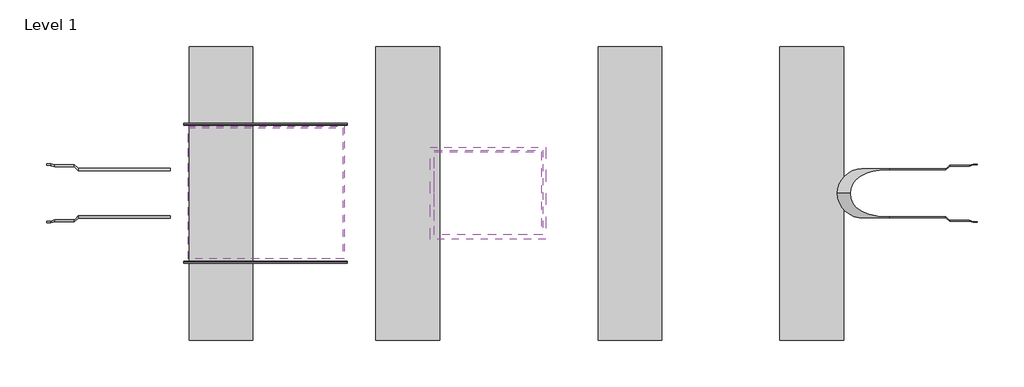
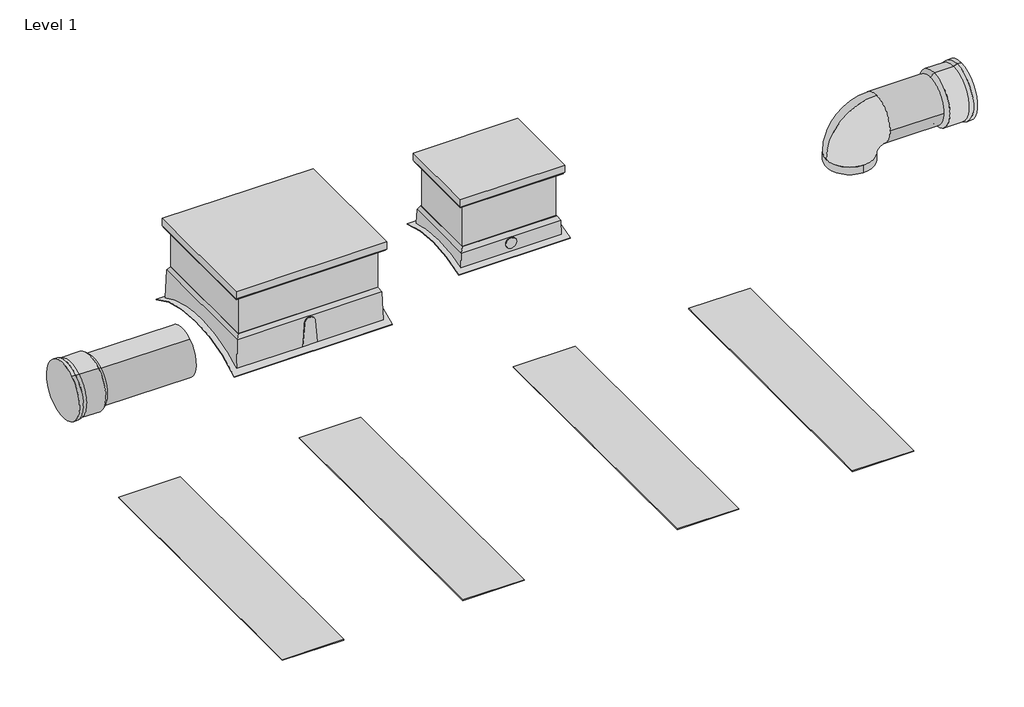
# One storey, incomplete: 12 proxies.
"""IFC4 building model written with IfcOpenShell, lengths in millimetres."""

from ifc_helpers import new_model, si_unit, origin, place, context, project, spatial, transform, mapped, element, save
from components import generic_models_f28cb2f1, generic_models_54e7e838, generic_models_1ade828a, generic_models_c3405434, generic_models_ba4cfca8, generic_models_fcdfde94, generic_models_c0f8ed8c, proxy_600_storm_pro_inlet_elbow_25fc55d9, proxy_600_storm_pro_pipe_and_socket_58a41dc5

model = new_model("IFC4")

# Units and contexts
model_context = context("Model", 3, world=origin())
ifc_project = project(units=[si_unit("LENGTHUNIT", "METRE", prefix="MILLI")], contexts=[model_context])

# Site, building, storey
site = spatial("IfcSite", under=ifc_project)
building = spatial("IfcBuilding", under=site)
storey = spatial("IfcBuildingStorey", under=building, Name="Level 1", Elevation=0.0)

# Proxies
placement = place(None, origin())
generic_models_shape = generic_models_f28cb2f1(model_context)
element("IfcBuildingElementProxy", 1, Name="SU.HS.FOOT.3500", ObjectType="SU.HS.FOOT.3500", at=placement, inside=storey, context=model_context, shape_type="MappedRepresentation", body=[
    mapped(generic_models_shape, transform((4303.4021454, 13.0189138, -2135.7858921), x_axis=(0.0, -1.0, 0.0), y_axis=(0.0, 0.0, 1.0), z_axis=(-1.0, 0.0, 0.0))),
])
element("IfcBuildingElementProxy", 2, Name="SU.HS.FOOT.3500", ObjectType="SU.HS.FOOT.3500", at=placement, inside=storey, context=model_context, shape_type="MappedRepresentation", body=[
    mapped(generic_models_shape, transform((2023.4021454, 13.0189138, -2135.7858921), x_axis=(0.0, -1.0, 0.0), y_axis=(0.0, 0.0, 1.0), z_axis=(-1.0, 0.0, 0.0))),
])
element("IfcBuildingElementProxy", 3, Name="SU.HS.FOOT.3500", ObjectType="SU.HS.FOOT.3500", at=placement, inside=storey, context=model_context, shape_type="MappedRepresentation", body=[
    mapped(generic_models_shape, transform((-3106.5978546, 13.0189138, -2135.7858921), x_axis=(0.0, -1.0, 0.0), y_axis=(0.0, 0.0, 1.0), z_axis=(-1.0, 0.0, 0.0))),
])
element("IfcBuildingElementProxy", 4, Name="SU.HS.FOOT.3500", ObjectType="SU.HS.FOOT.3500", at=placement, inside=storey, context=model_context, shape_type="MappedRepresentation", body=[
    mapped(generic_models_shape, transform((-763.4057076, 13.0189138, -2135.7858921), x_axis=(0.0, -1.0, 0.0), y_axis=(0.0, 0.0, 1.0), z_axis=(-1.0, 0.0, 0.0))),
])
generic_models_2_shape = generic_models_54e7e838(model_context)
element("IfcBuildingElementProxy", 5, Name="SU.1500x1800ManwayRiserAdaptor.3500", ObjectType="SU.1500x1800ManwayRiserAdaptor.3500", at=placement, inside=storey, context=model_context, shape_type="MappedRepresentation", body=[
    mapped(generic_models_2_shape, transform((-2848.0704947, 13.0189138, 1715.97119), x_axis=(0.0, -1.0, 0.0), y_axis=(0.0, 0.0, 1.0), z_axis=(-1.0, 0.0, 0.0))),
])
generic_models_3_shape = generic_models_1ade828a(model_context)
element("IfcBuildingElementProxy", 6, Name="1500x1800 Manway Cover Class D ST-02", ObjectType="1500x1800 Manway Cover Class D ST-02", at=placement, inside=storey, context=model_context, shape_type="MappedRepresentation", body=[
    mapped(generic_models_3_shape, transform((-2838.0704947, 23.0189138, 2206.0271944), x_axis=(0.0, -1.0, 0.0), y_axis=(0.0, 0.0, 1.0), z_axis=(-1.0, 0.0, 0.0))),
])
generic_models_4_shape = generic_models_c3405434(model_context)
element("IfcBuildingElementProxy", 7, Name="SU.900x1200ManwayRiserAdapter.3500", ObjectType="SU.900x1200ManwayRiserAdapter.3500", at=placement, inside=storey, context=model_context, shape_type="MappedRepresentation", body=[
    mapped(generic_models_4_shape, transform((-60.0704947, 13.0189138, 1650.0271944), x_axis=(0.0, -1.0, 0.0), y_axis=(0.0, 0.0, 1.0), z_axis=(-1.0, 0.0, 0.0))),
])
generic_models_5_shape = generic_models_ba4cfca8(model_context)
element("IfcBuildingElementProxy", 8, Name="1500x1800x600 Manway Riser", ObjectType="1500x1800x600 Manway Riser", at=placement, inside=storey, context=model_context, shape_type="MappedRepresentation", body=[
    mapped(generic_models_5_shape, transform((-2848.0704947, 13.0189138, 2206.0271944), x_axis=(0.0, -1.0, 0.0), y_axis=(0.0, 0.0, 1.0), z_axis=(-1.0, 0.0, 0.0))),
])
generic_models_6_shape = generic_models_fcdfde94(model_context)
element("IfcBuildingElementProxy", 9, Name="900x900 Manway Cover Class D ST-02", ObjectType="900x900 Manway Cover Class D ST-02", at=placement, inside=storey, context=model_context, shape_type="MappedRepresentation", body=[
    mapped(generic_models_6_shape, transform((-50.0704947, 23.0189138, 2206.0271944), x_axis=(0.0, 1.0, 0.0), y_axis=(0.0, 0.0, 1.0), z_axis=(1.0, 0.0, 0.0))),
])
generic_models_7_shape = generic_models_c0f8ed8c(model_context)
element("IfcBuildingElementProxy", 10, Name="900x1200x600 Manway Riser", ObjectType="900x1200x600 Manway Riser", at=placement, inside=storey, context=model_context, shape_type="MappedRepresentation", body=[
    mapped(generic_models_7_shape, transform((-60.0704947, 13.0189138, 2206.0271944), x_axis=(0.0, 1.0, 0.0), y_axis=(0.0, 0.0, 1.0), z_axis=(1.0, 0.0, 0.0))),
])
proxy_600_storm_pro_inlet_elbow_shape = proxy_600_storm_pro_inlet_elbow_25fc55d9(model_context)
element("IfcBuildingElementProxy", 11, Name="600 Storm Pro Inlet Elbow", ObjectType="600 Storm Pro Inlet Elbow", at=placement, inside=storey, context=model_context, shape_type="MappedRepresentation", body=[
    mapped(proxy_600_storm_pro_inlet_elbow_shape, transform((5629.9982189, 13.0189138, 1124.2141079), x_axis=(0.0, 1.0, 0.0), y_axis=(0.0, 0.0, 1.0), z_axis=(1.0, 0.0, 0.0))),
])
proxy_600_storm_pro_pipe_and_socket_shape = proxy_600_storm_pro_pipe_and_socket_58a41dc5(model_context)
element("IfcBuildingElementProxy", 12, Name="600 Storm Pro Pipe and Socket", ObjectType="600 Storm Pro Pipe and Socket", at=placement, inside=storey, context=model_context, shape_type="MappedRepresentation", body=[
    mapped(proxy_600_storm_pro_pipe_and_socket_shape, transform((-2493.7847805, 13.0189138, 1074.2141079), x_axis=(0.0, -0.8432797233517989, -0.5374749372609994), y_axis=(0.0, -0.5374749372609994, 0.8432797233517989), z_axis=(-0.9999999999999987, 0.0, 0.0))),
])

save(model, "model.ifc")
